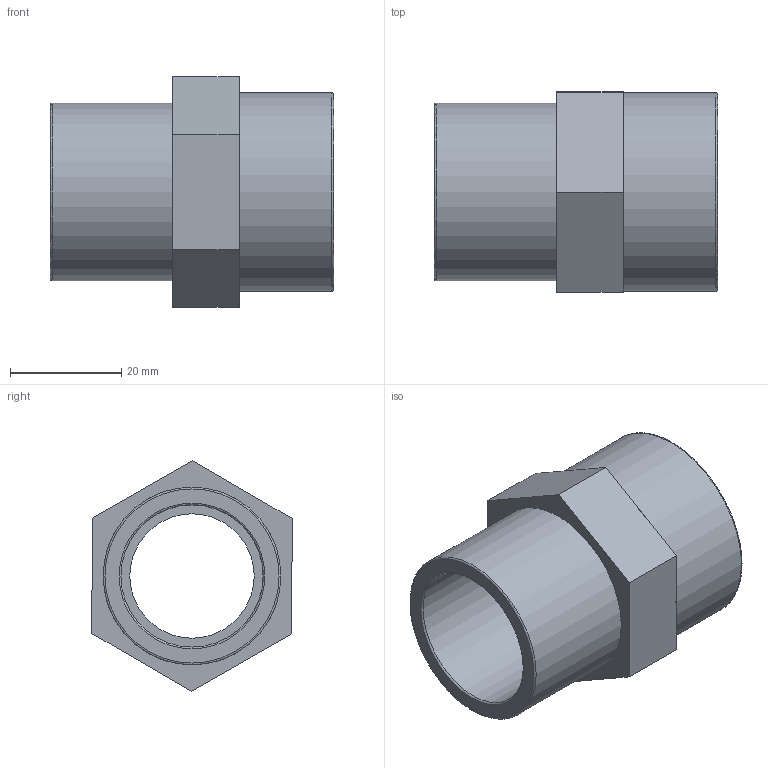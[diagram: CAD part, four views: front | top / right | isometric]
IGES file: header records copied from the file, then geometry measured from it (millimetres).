
Global section: file name: 050302032010.ipt; native system: Autodesk Inventor 2015; preprocessor: unknown; author: KIM; date: 20171207.164404; units: millimetre
Bounding box: 51 x 36.06 x 41.57 mm (x, y, z)
Volume: 18417.3 mm3; surface area: 11381.7 mm2
Topology: 1 solids, 1 shells, 21 faces, 55 edges, 40 vertices
Faces by surface type: plane 12, revolution 7, cylinder 2
Full cylindrical faces by diameter (mm): 32 x1, 35.84 x1
